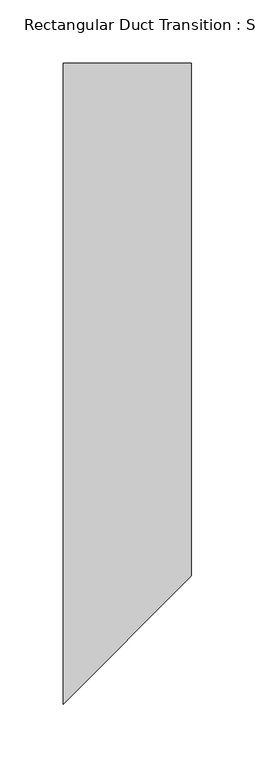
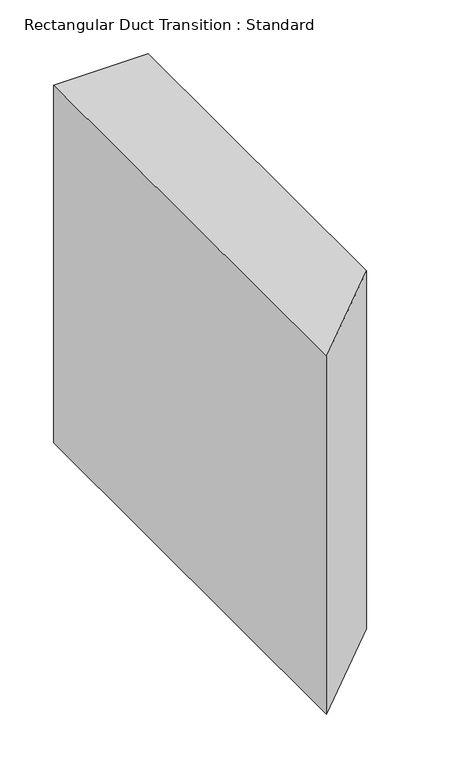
"""IFC4 building model written with IfcOpenShell, lengths in millimetres: duct fitting geometry, Rectangular Duct Transition : Standard."""

from ifc_helpers import new_model, si_unit, frame, origin, place, context, project, spatial, polyline, outline, extrude, source, transform, mapped, element, save


def rectangular_duct_transition_standard_f2bcc6f5(model_context):
    return source(origin(), model_context, "Body", "SweptSolid", [
        extrude(outline(polyline([(0.0, -254.0), (0.0, 254.0), (101.6, 254.0), (101.6, -152.4), (0.0, -254.0)])), frame((0.0, 0.0, -203.2), z_axis=(0.0, 0.0, 1.0), x_axis=(1.0, 0.0, 0.0)), (0.0, 0.0, 1.0), 406.4),
        extrude(outline(polyline([(0.0, -254.0), (0.0, 254.0), (101.6, 254.0), (101.6, -152.4), (0.0, -254.0)])), frame((0.0, 0.0, -203.2), z_axis=(0.0, 0.0, 1.0), x_axis=(1.0, 0.0, 0.0)), (0.0, 0.0, 1.0), 406.4),
        extrude(outline(polyline([(0.0, -254.0), (0.0, 254.0), (101.6, 254.0), (101.6, -152.4), (0.0, -254.0)])), frame((0.0, 0.0, -203.2), z_axis=(0.0, 0.0, 1.0), x_axis=(1.0, 0.0, 0.0)), (0.0, 0.0, 1.0), 406.4),
    ])


if __name__ == "__main__":
    model = new_model("IFC4")
    model_context = context("Model", 3, world=origin())
    ifc_project = project(units=[si_unit("LENGTHUNIT", "METRE", prefix="MILLI")], contexts=[model_context])
    site = spatial("IfcSite", under=ifc_project)
    building = spatial("IfcBuilding", under=site)
    placement = place(None, origin())
    rectangular_duct_transition_standard_shape = rectangular_duct_transition_standard_f2bcc6f5(model_context)
    element("IfcDuctFitting", 1, ObjectType="Rectangular Duct Transition : Standard", at=placement, inside=building, context=model_context, shape_type="MappedRepresentation", body=[
        mapped(rectangular_duct_transition_standard_shape, transform((0.0, 0.0, 0.0), x_axis=(1.0, 0.0, 0.0), y_axis=(0.0, 1.0, 0.0), z_axis=(0.0, 0.0, 1.0))),
    ])
    save(model, "model.ifc")
